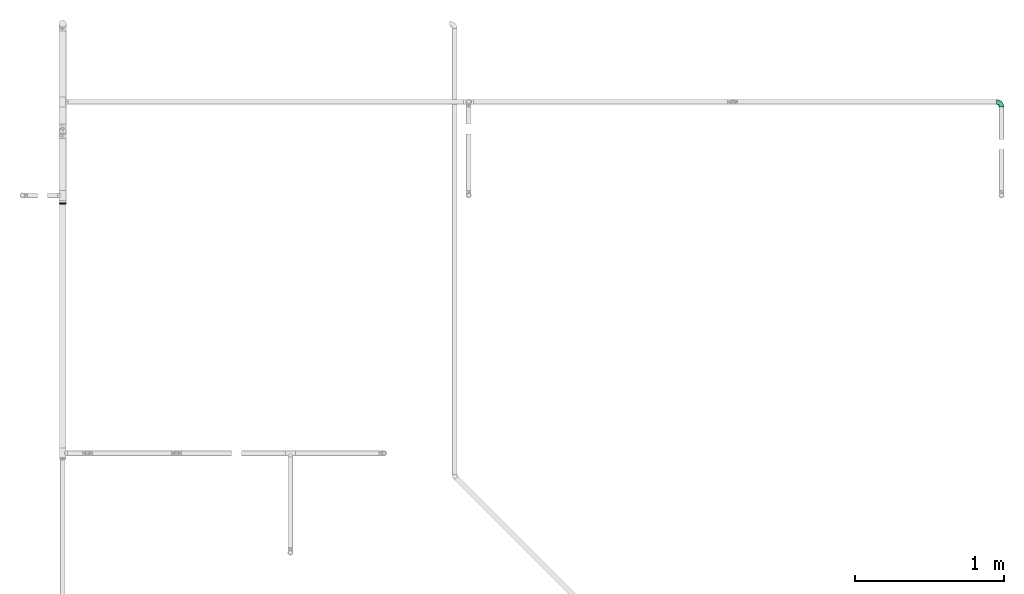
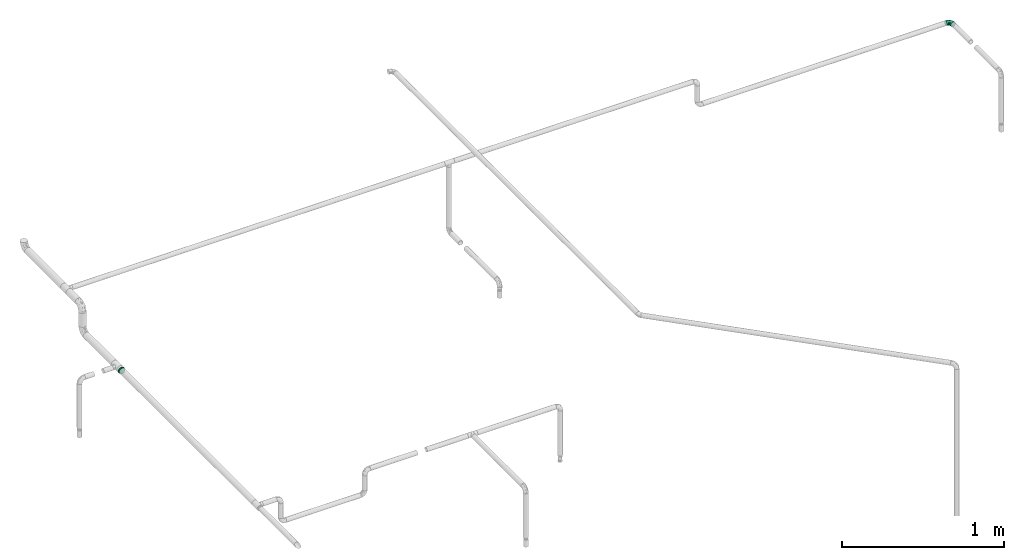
# One storey, part 17 of 17: 2 flow fittings.
"""IFC2X3 building model written with IfcOpenShell, lengths in millimetres."""

from ifc_helpers import new_model, entity, si_unit, converted_unit, derived_unit, direction, frame, origin_with_axes, place, context, subcontext, project, spatial, open_shell, surface_model, source, transform, mapped, type_object, element, save


model = new_model("IFC2X3")

# Units and contexts
model_context = context("Model", 3, precision=0.01, world=frame((0.0, 4.29681676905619e-09, 0.0)), true_north=direction((4.01073788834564e-13, 1.0)))
plan_context = context("Plan", 3, precision=0.01, world=frame((0.0, 4.29681676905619e-09, 0.0)), true_north=direction((4.01073788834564e-13, 1.0)))
body_context = subcontext(model_context, "Body", "Model", "MODEL_VIEW")
ifc_project = project(units=[converted_unit("PLANEANGLEUNIT", "DEGREE", entity("IfcPositiveLengthMeasure", 0.0174532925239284), si_unit("PLANEANGLEUNIT", "RADIAN"), dimensions=[0, 0, 0, 0, 0, 0, 0]), si_unit("AREAUNIT", "SQUARE_METRE"), si_unit("LENGTHUNIT", "METRE", prefix="MILLI"), si_unit("MASSUNIT", "GRAM", prefix="KILO"), si_unit("POWERUNIT", "WATT"), si_unit("PRESSUREUNIT", "PASCAL", prefix="KILO"), si_unit("FORCEUNIT", "NEWTON", prefix="KILO"), si_unit("ELECTRICVOLTAGEUNIT", "VOLT"), si_unit("ELECTRICCURRENTUNIT", "AMPERE"), si_unit("THERMODYNAMICTEMPERATUREUNIT", "DEGREE_CELSIUS"), si_unit("TIMEUNIT", "SECOND"), si_unit("VOLUMEUNIT", "CUBIC_METRE"), derived_unit("LINEARVELOCITYUNIT", [(si_unit("LENGTHUNIT", "METRE"), 1), (si_unit("TIMEUNIT", "SECOND"), -1)]), derived_unit("VOLUMETRICFLOWRATEUNIT", [(si_unit("VOLUMEUNIT", "CUBIC_METRE"), 1), (si_unit("TIMEUNIT", "SECOND"), -1)]), derived_unit("THERMALTRANSMITTANCEUNIT", [(si_unit("POWERUNIT", "WATT"), 1), (si_unit("THERMODYNAMICTEMPERATUREUNIT", "KELVIN"), -1), (si_unit("AREAUNIT", "SQUARE_METRE"), -1)]), derived_unit("SOUNDPRESSUREUNIT", [(si_unit("PRESSUREUNIT", "PASCAL"), 1)])], contexts=[model_context, plan_context])

# Site, building, storey
site_placement = place(None, frame((0.0, -4.29681676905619e-09, 0.0), z_axis=(0.0, 0.0, 1.0), x_axis=(1.0, 0.0, 0.0)))
site = spatial("IfcSite", under=ifc_project, at=site_placement, CompositionType="ELEMENT")
building_placement = place(site_placement, frame((0.0, 4.29681676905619e-09, 0.0), z_axis=(0.0, 0.0, 1.0), x_axis=(1.0, 0.0, 0.0)))
building = spatial("IfcBuilding", under=site, at=building_placement, Name="mc-building", CompositionType="ELEMENT")
storey_placement = place(building_placement, frame((0.0, 0.0, 204000.0), z_axis=(0.0, 0.0, 1.0), x_axis=(1.0, 0.0, 0.0)))
storey = spatial("IfcBuildingStorey", under=building, at=storey_placement, Name="Nivå D", CompositionType="ELEMENT", Elevation=204000.0)

# Flow fittings
pipe_fitting_type_1 = type_object("IfcPipeFittingType", Name="magi_pipe_fe_reducer_centric_short_NOR", PredefinedType="TRANSITION")
shared_shape_1 = source(origin_with_axes(), body_context, "Body", "SurfaceModel", [
    surface_model("IfcShellBasedSurfaceModel", [(-2.0, -10.6, -18.35974), (-2.0, 0.0, -21.2), (-2.0, -5.48696, -20.47763), (-2.0, 5.48696, -20.47763), (-2.0, 10.6, -18.35974), (-2.0, 0.0, 21.2), (-2.0, 5.48696, 20.47763), (-2.0, 10.6, 18.35974), (-2.0, 14.99066, 14.99066), (-2.0, 18.35974, 10.6), (-2.0, 20.47763, 5.48696), (-2.0, -21.2, 0.0), (-2.0, -14.99066, -14.99066), (-2.0, -5.48696, 20.47763), (-2.0, -14.99066, 14.99066), (-2.0, -10.6, 18.35974), (-2.0, -18.35974, 10.6), (-2.0, -20.47763, 5.48696), (-2.0, 20.47763, -5.48696), (-2.0, 14.99066, -14.99066), (-2.0, 18.35974, -10.6), (-2.0, -18.35974, -10.6), (-2.0, -20.47763, -5.48696), (-2.0, 21.2, 0.0), (0.0, 10.6, -18.35974), (0.0, 0.0, -21.2), (0.0, 5.48696, -20.47763), (0.0, 20.47763, -5.48696), (0.0, 14.99066, -14.99066), (0.0, -21.2, 0.0), (0.0, -14.99066, -14.99066), (0.0, 18.35974, -10.6), (0.0, -10.6, -18.35974), (0.0, -5.48696, -20.47763), (0.0, -18.35974, -10.6), (0.0, -20.47763, -5.48696), (0.0, -18.35974, 10.6), (0.0, 21.2, 0.0), (0.0, 20.47763, 5.48696), (0.0, 18.35974, 10.6), (0.0, 14.99066, 14.99066), (0.0, 0.0, 21.2), (0.0, 10.6, 18.35974), (0.0, 5.48696, 20.47763), (0.0, -14.99066, 14.99066), (0.0, -20.47763, 5.48696), (0.0, -5.48696, 20.47763), (0.0, -10.6, 18.35974), (8.0, 24.2, 0.0), (8.0, 6.26342, -23.37541), (8.0, 12.1, -20.95781), (8.0, 23.37541, -6.26342), (8.0, 17.11198, -17.11198), (8.0, 20.95781, -12.1), (8.0, -24.2, 0.0), (8.0, -12.1, -20.95781), (8.0, -6.26342, -23.37541), (8.0, 0.0, -24.2), (8.0, -17.11198, -17.11198), (8.0, -23.37541, -6.26342), (8.0, -20.95781, -12.1), (8.0, 20.95781, 12.1), (8.0, 17.11198, 17.11198), (8.0, 12.1, 20.95781), (8.0, 6.26342, 23.37541), (8.0, 0.0, 24.2), (8.0, -23.37541, 6.26342), (8.0, -17.11198, 17.11198), (8.0, -20.95781, 12.1), (8.0, -6.26342, 23.37541), (8.0, -12.1, 20.95781), (8.0, 23.37541, 6.26342), (6.0, 0.0, 24.2), (6.0, 6.26342, 23.37541), (6.0, 12.1, 20.95781), (6.0, 17.11198, 17.11198), (6.0, 6.26342, -23.37541), (6.0, 20.95781, 12.1), (6.0, -23.37541, 6.26342), (6.0, -17.11198, -17.11198), (6.0, -6.26342, 23.37541), (6.0, -17.11198, 17.11198), (6.0, -12.1, 20.95781), (6.0, -20.95781, 12.1), (6.0, -24.2, 0.0), (6.0, 23.37541, 6.26342), (6.0, 24.2, 0.0), (6.0, 23.37541, -6.26342), (6.0, 17.11198, -17.11198), (6.0, 20.95781, -12.1), (6.0, 12.1, -20.95781), (6.0, -23.37541, -6.26342), (6.0, -20.95781, -12.1), (6.0, -6.26342, -23.37541), (6.0, -12.1, -20.95781), (6.0, 0.0, -24.2), (6.0, 7.47821, 23.01557), (6.0, -7.47821, 23.01557), (6.0, 19.57821, 14.2244), (6.0, 19.57821, -14.2244), (6.0, -19.57821, 14.2244), (6.0, -19.57821, -14.2244), (6.0, 7.47821, -23.01557), (6.0, -7.47821, -23.01557), (0.0, -6.55116, 20.1624), (0.0, 6.55116, 20.1624), (0.0, -17.15116, 12.46105), (0.0, -17.15116, -12.46105), (0.0, 17.15116, 12.46105), (0.0, 17.15116, -12.46105), (0.0, -6.55116, -20.1624), (0.0, 6.55116, -20.1624), (6.0, -21.8891, -7.1122), (0.0, -19.17558, -6.23052), (0.0, -11.85116, -16.31172), (6.0, -13.52821, -18.61999), (6.0, 0.0, -23.01557), (0.0, 0.0, -20.1624), (0.0, 18.43768, -8.50153), (0.0, 19.72421, -4.54202), (6.0, 21.8891, -7.1122), (6.0, 13.52821, -18.61999), (0.0, 11.85116, -16.31172), (6.0, 21.8891, 7.1122), (0.0, 19.17558, 6.23052), (0.0, 11.85116, 16.31172), (6.0, 13.52821, 18.61999), (6.0, 0.0, 23.01557), (0.0, 0.0, 20.1624), (0.0, -18.43768, 8.50153), (0.0, -19.72421, 4.54202), (6.0, -21.8891, 7.1122), (6.0, -13.52821, 18.61999), (0.0, -11.85116, 16.31172)], [open_shell([[[0, 1, 2]], [[3, 1, 4]], [[5, 6, 7]], [[5, 7, 8]], [[8, 9, 10]], [[8, 10, 5]], [[11, 5, 12]], [[13, 14, 15]], [[13, 5, 14]], [[16, 11, 17]], [[14, 5, 16]], [[5, 11, 16]], [[5, 10, 12]], [[10, 18, 4]], [[19, 18, 20]], [[12, 10, 4]], [[4, 18, 19]], [[11, 21, 22]], [[12, 21, 11]], [[0, 12, 4]], [[1, 0, 4]], [[18, 10, 23]], [[24, 25, 26]], [[27, 24, 28]], [[29, 30, 24]], [[27, 28, 31]], [[27, 29, 24]], [[25, 32, 33]], [[25, 24, 32]], [[34, 29, 35]], [[32, 24, 30]], [[34, 30, 29]], [[36, 27, 37]], [[38, 39, 40]], [[38, 40, 41]], [[42, 43, 41]], [[42, 41, 40]], [[38, 41, 44]], [[29, 36, 45]], [[27, 36, 29]], [[44, 46, 47]], [[36, 38, 44]], [[41, 46, 44]], [[36, 37, 38]], [[22, 35, 11]], [[21, 34, 22]], [[32, 12, 0]], [[21, 12, 30]], [[33, 0, 2]], [[22, 34, 35]], [[35, 29, 11]], [[33, 32, 0]], [[30, 12, 32]], [[30, 34, 21]], [[25, 33, 2]], [[2, 1, 25]], [[3, 26, 1]], [[4, 24, 3]], [[31, 19, 20]], [[4, 19, 28]], [[27, 20, 18]], [[4, 28, 24]], [[24, 26, 3]], [[37, 27, 18]], [[31, 20, 27]], [[31, 28, 19]], [[23, 37, 18]], [[1, 26, 25]], [[10, 38, 23]], [[9, 39, 10]], [[42, 8, 7]], [[9, 8, 40]], [[43, 7, 6]], [[10, 39, 38]], [[38, 37, 23]], [[43, 42, 7]], [[40, 8, 42]], [[40, 39, 9]], [[41, 43, 6]], [[6, 5, 41]], [[13, 46, 5]], [[15, 47, 13]], [[36, 14, 16]], [[15, 14, 44]], [[45, 16, 17]], [[15, 44, 47]], [[47, 46, 13]], [[29, 45, 17]], [[36, 16, 45]], [[36, 44, 14]], [[11, 29, 17]], [[5, 46, 41]], [[48, 49, 50]], [[51, 50, 52]], [[51, 48, 50]], [[51, 52, 53]], [[49, 54, 55]], [[49, 56, 57]], [[49, 55, 56]], [[58, 59, 60]], [[58, 55, 54]], [[58, 54, 59]], [[49, 48, 61]], [[61, 62, 49]], [[49, 62, 54]], [[63, 64, 65]], [[63, 65, 62]], [[54, 62, 65]], [[66, 67, 68]], [[69, 66, 54]], [[67, 69, 70]], [[69, 67, 66]], [[54, 65, 69]], [[48, 71, 61]], [[72, 73, 74]], [[72, 74, 75]], [[76, 75, 77]], [[78, 72, 79]], [[72, 75, 79]], [[80, 81, 82]], [[80, 72, 81]], [[81, 78, 83]], [[72, 78, 81]], [[78, 79, 84]], [[76, 77, 85]], [[76, 86, 87]], [[88, 87, 89]], [[90, 76, 87]], [[90, 87, 88]], [[76, 79, 75]], [[91, 79, 92]], [[84, 79, 91]], [[76, 93, 94]], [[94, 79, 76]], [[93, 76, 95]], [[85, 86, 76]], [[91, 59, 84]], [[92, 60, 91]], [[55, 79, 94]], [[92, 79, 58]], [[56, 94, 93]], [[91, 60, 59]], [[59, 54, 84]], [[56, 55, 94]], [[58, 79, 55]], [[58, 60, 92]], [[57, 56, 93]], [[93, 95, 57]], [[76, 49, 95]], [[90, 50, 76]], [[53, 88, 89]], [[90, 88, 52]], [[51, 89, 87]], [[90, 52, 50]], [[50, 49, 76]], [[48, 51, 87]], [[53, 89, 51]], [[53, 52, 88]], [[86, 48, 87]], [[95, 49, 57]], [[85, 71, 86]], [[77, 61, 85]], [[63, 75, 74]], [[77, 75, 62]], [[64, 74, 73]], [[85, 61, 71]], [[71, 48, 86]], [[64, 63, 74]], [[62, 75, 63]], [[62, 61, 77]], [[65, 64, 73]], [[73, 72, 65]], [[80, 69, 72]], [[82, 70, 80]], [[68, 81, 83]], [[82, 81, 67]], [[66, 83, 78]], [[82, 67, 70]], [[70, 69, 80]], [[54, 66, 78]], [[68, 83, 66]], [[68, 67, 81]], [[84, 54, 78]], [[72, 69, 65]], [[96, 97, 84]], [[98, 99, 86]], [[96, 99, 98]], [[84, 97, 100]], [[84, 101, 99]], [[101, 102, 99]], [[102, 101, 103]], [[84, 99, 96]], [[104, 105, 37]], [[106, 107, 29]], [[104, 107, 106]], [[37, 105, 108]], [[37, 109, 107]], [[109, 110, 107]], [[110, 109, 111]], [[37, 107, 104]], [[112, 29, 113]], [[113, 107, 101]], [[103, 114, 110]], [[29, 112, 84]], [[113, 101, 112]], [[115, 107, 114]], [[116, 103, 110]], [[117, 102, 116]], [[102, 117, 111]], [[118, 119, 120]], [[107, 115, 101]], [[103, 115, 114]], [[111, 121, 102]], [[122, 99, 121]], [[119, 86, 120]], [[121, 111, 122]], [[119, 37, 86]], [[122, 109, 99]], [[116, 110, 117]], [[118, 99, 109]], [[99, 118, 120]], [[123, 37, 124]], [[124, 108, 98]], [[96, 125, 105]], [[37, 123, 86]], [[124, 98, 123]], [[126, 108, 125]], [[127, 96, 105]], [[128, 97, 127]], [[97, 128, 104]], [[129, 130, 131]], [[108, 126, 98]], [[96, 126, 125]], [[104, 132, 97]], [[133, 100, 132]], [[130, 84, 131]], [[132, 104, 133]], [[130, 29, 84]], [[133, 106, 100]], [[127, 105, 128]], [[129, 100, 106]], [[100, 129, 131]]])]),
])
flow_fitting_1_placement = place(storey_placement, frame((596244.66498, 403991.43152, 2780.0), z_axis=(0.0, 0.0, 1.0), x_axis=(0.0, 1.0, 0.0)))
element("IfcFlowFitting", 1, at=flow_fitting_1_placement, inside=storey, type_object=pipe_fitting_type_1, Name="magi_pipe_fe_reducer_centric_short_NOR", context=body_context, shape_type="MappedRepresentation", body=[
    mapped(shared_shape_1, transform((0.0, 0.0, 0.0), scale=1.0)),
])
pipe_fitting_type_2 = type_object("IfcPipeFittingType", Name="magi_pipe_fe_elbow_short_001", PredefinedType="BEND")
shared_shape_2 = source(origin_with_axes(), body_context, "Body", "SurfaceModel", [
    surface_model("IfcShellBasedSurfaceModel", [(-33.8, 8.45, -14.63583), (-33.8, 4.37404, -16.32415), (-33.8, 11.9501, -11.9501), (-33.8, -11.9501, -11.9501), (-33.8, -14.63583, -8.45), (-33.8, -8.45, -14.63583), (-33.8, 0.0, -16.9), (-33.8, -4.37404, -16.32415), (-33.8, -4.37404, 16.32415), (-33.8, 0.0, 16.9), (-33.8, -8.45, 14.63583), (-33.8, 16.32415, -4.37404), (-33.8, 14.63583, -8.45), (-33.8, -16.9, 0.0), (-33.8, -16.32415, 4.37404), (-33.8, -16.32415, -4.37404), (-33.8, 4.37404, 16.32415), (-33.8, 8.45, 14.63583), (-33.8, 11.9501, 11.9501), (-33.8, -14.63583, 8.45), (-33.8, -11.9501, 11.9501), (-11.9501, 33.8, -11.9501), (0.0, 33.8, -16.9), (-4.37404, 33.8, -16.32415), (-8.45, 33.8, -14.63583), (-14.63583, 33.8, -8.45), (-16.32415, 33.8, -4.37404), (8.45, 33.8, -14.63583), (14.63583, 33.8, -8.45), (11.9501, 33.8, -11.9501), (16.32415, 33.8, -4.37404), (16.32415, 33.8, 4.37404), (16.9, 33.8, 0.0), (-11.9501, 33.8, 11.9501), (-8.45, 33.8, 14.63583), (-4.37404, 33.8, 16.32415), (11.9501, 33.8, 11.9501), (14.63583, 33.8, 8.45), (8.45, 33.8, 14.63583), (0.0, 33.8, 16.9), (4.37404, 33.8, 16.32415), (-16.32415, 33.8, 4.37404), (-16.9, 33.8, 0.0), (-24.79389, -13.12945, 9.48721), (-22.19287, -9.75018, 12.59315), (-24.09897, -14.97035, 0.0), (-14.93934, -10.76256, 8.5297), (-22.46095, -14.75051, 5.27077), (-24.84007, -6.39063, 15.2048), (-25.81779, -2.23879, 16.61097), (-23.66549, 2.59054, 16.87119), (-26.50418, 14.06512, 11.08152), (-24.21253, 17.66365, 7.72657), (-29.58514, 15.86957, 7.00283), (-6.17382, -7.5455, 0.0), (-13.23888, -11.9251, 4.33236), (-14.39795, -13.04069, 0.0), (-17.81434, 18.87373, 11.97104), (-6.30846, 29.15138, 15.82987), (-2.31622, 25.28002, 16.85849), (-29.23923, 10.23435, 13.77053), (-1.45439, -2.85688, 7.61475), (-0.28326, 0.34872, 10.09509), (-5.74484, -4.04709, 10.4122), (-33.8, 14.63583, 8.45), (-14.63583, 33.8, 8.45), (-17.39909, 24.75344, 7.64977), (-26.19233, 20.0512, 0.0), (-33.8, 16.9, 0.0), (-28.14518, 17.29657, 4.25857), (-33.8, 16.32415, 4.37404), (-26.05147, 6.6281, 15.96447), (-5.87354, 16.61944, 16.86968), (-12.51807, 12.51807, 16.48937), (-10.06312, 7.38516, 16.81295), (-3.01882, 3.01882, 13.81718), (-13.0571, -4.10169, 14.04018), (-16.82553, -0.15166, 16.38038), (-13.68847, -7.71387, 11.55891), (-7.30894, 22.89991, 16.09489), (-10.67958, 26.17414, 14.008), (-12.78295, 18.26924, 15.06066), (-13.88562, 22.45231, 12.93244), (-18.04944, 15.16501, 14.04434), (-23.11658, 20.08178, 4.02986), (-21.84989, 21.84989, 0.0), (-18.55817, 25.48277, 3.93065), (-13.95142, 26.94732, 11.03289), (-18.57098, 7.23906, 16.59756), (-16.58335, 4.14122, 16.89279), (-17.96666, 11.46709, 15.63151), (-9.84453, 17.54304, 16.18938), (-23.27207, 11.47201, 14.23154), (-8.39727, 3.10034, 15.7812), (-8.0212, -7.54413, 7.93275), (1.00345, -2.19508, 4.57414), (5.13203, 3.01004, 5.90201), (-20.0512, 26.19233, 0.0), (3.84842, 5.86994, 10.70473), (8.4852, 8.76699, 7.09296), (-1.72649, 9.1306, 15.53089), (-4.55488, -6.72064, 4.90681), (8.70457, 7.04947, 3.99182), (7.71387, 13.68847, 11.55891), (10.76256, 14.93934, 8.5297), (-26.75399, 2.1369, -16.845), (-14.61995, 24.73803, -11.27736), (-28.45274, -13.45335, -9.81895), (-26.00469, 6.63555, -15.96645), (-23.06726, 20.04573, -4.26202), (-24.53586, 11.08096, -14.13417), (-26.72048, 14.00837, -11.05776), (-20.38182, 15.48705, -12.74596), (-15.65186, 19.64213, -13.01327), (-12.03528, 20.66498, -14.67665), (-15.61907, 15.61906, -14.83879), (-25.56551, -15.26206, 0.0), (-24.65452, -15.12934, -5.50955), (-7.35442, -8.31014, -5.65563), (-15.67504, -12.54494, -5.54878), (-24.44989, -10.0967, -12.75976), (-21.23441, -12.53268, -9.15363), (-24.89911, -2.13088, -16.591), (-28.54238, -6.66249, -15.38093), (-18.44386, -7.71663, -13.26957), (-28.64342, 17.44413, -2.89318), (-5.70658, -5.33066, -8.89288), (1.70017, -1.28722, -5.09504), (-16.57067, 26.81947, -7.36596), (-17.69055, 27.4263, -3.76405), (-12.89279, -9.7522, -8.66343), (-20.53709, 20.09345, -8.28985), (-2.1369, 26.75399, -16.845), (-6.89872, 24.58781, -16.02578), (-10.60739, 26.53157, -13.98044), (-21.40218, -5.83237, -15.03047), (-14.67501, -0.21081, -16.07388), (-3.99512, 18.61798, -16.89635), (-9.1383, 9.86148, -16.89041), (-9.99983, 16.02119, -16.39699), (-16.68576, 9.78031, -16.34199), (-27.01915, 16.61158, -7.12979), (0.21081, 14.67501, -16.07388), (-5.96611, 5.96611, -15.95814), (-13.80647, -4.26506, -14.17873), (-18.61798, 3.99512, -16.89635), (-19.37495, 27.82495, 0.0), (-12.61842, -6.89393, -11.82233), (5.58056, 5.95325, -8.79455), (8.31014, 7.35442, -5.65563), (-18.84705, 19.14018, -10.96545), (-5.13869, -2.37198, -11.53565), (-4.41136, 11.31917, 16.59407), (0.15167, 16.82552, 16.38038), (4.1017, 13.05709, 14.04019), (5.24161, 1.75429, 2.53265), (7.54551, 6.1738, 0.0), (11.9251, 13.23887, 4.33236), (-6.79019, -0.28281, -13.8478), (0.71147, 7.93862, -14.09382), (2.93193, 5.89626, -11.55917), (6.89393, 12.61842, -11.82233), (9.7522, 12.89278, -8.66343), (12.54494, 15.67503, -5.54878), (15.12934, 24.65451, -5.50955), (0.16522, 0.41301, -9.71728), (9.75019, 22.19285, 12.59315), (6.39064, 24.84006, 15.2048), (2.2388, 25.81778, 16.61097), (10.09671, 24.44988, -12.75976), (5.83237, 21.40217, -15.03047), (6.6625, 28.54237, -15.38093), (12.53269, 21.2344, -9.15364), (13.45335, 28.45273, -9.81895), (2.13089, 24.8991, -16.591), (13.0407, 14.39794, 0.0), (15.26207, 25.5655, 0.0), (4.37404, 33.8, -16.32415), (14.75051, 22.46094, 5.27077), (13.12946, 24.79387, 9.48721), (14.97035, 24.09896, 0.0), (2.05032, -2.05032, 0.0), (3.49291, 14.42772, -14.76381)], [open_shell([[[0, 1, 2]], [[3, 4, 5]], [[6, 7, 5]], [[6, 5, 4]], [[8, 9, 10]], [[11, 12, 2]], [[13, 14, 15]], [[16, 17, 18]], [[19, 20, 14]], [[10, 9, 16]], [[21, 22, 23]], [[21, 23, 24]], [[21, 25, 26]], [[27, 28, 29]], [[30, 31, 32]], [[33, 34, 35]], [[31, 36, 37]], [[38, 39, 40]], [[41, 26, 42]], [[20, 43, 44]], [[14, 13, 45]], [[46, 43, 47]], [[43, 20, 19]], [[14, 47, 19]], [[44, 10, 20]], [[44, 48, 10]], [[9, 49, 50]], [[51, 52, 53]], [[54, 55, 56]], [[51, 57, 52]], [[35, 58, 59]], [[17, 60, 18]], [[8, 49, 9]], [[61, 62, 63]], [[18, 51, 64]], [[65, 41, 66]], [[67, 68, 69]], [[53, 70, 64]], [[9, 50, 16]], [[16, 71, 17]], [[72, 73, 74]], [[63, 75, 76]], [[48, 76, 77]], [[78, 76, 44]], [[10, 48, 8]], [[55, 47, 56]], [[79, 72, 59]], [[80, 81, 79]], [[82, 83, 81]], [[67, 84, 85]], [[34, 33, 80]], [[86, 85, 84]], [[57, 66, 52]], [[35, 34, 58]], [[68, 70, 69]], [[80, 79, 58]], [[66, 86, 84]], [[33, 87, 80]], [[59, 39, 35]], [[82, 80, 87]], [[14, 45, 47]], [[71, 16, 50]], [[88, 89, 74]], [[90, 71, 88]], [[33, 65, 87]], [[91, 81, 73]], [[79, 91, 72]], [[60, 51, 18]], [[51, 92, 83]], [[76, 48, 44]], [[56, 47, 45]], [[49, 48, 77]], [[78, 44, 46]], [[76, 75, 93]], [[94, 63, 78]], [[61, 63, 94]], [[55, 46, 47]], [[61, 95, 96]], [[47, 43, 19]], [[44, 43, 46]], [[88, 71, 50]], [[60, 71, 92]], [[70, 53, 69]], [[52, 66, 84]], [[42, 97, 86]], [[86, 97, 85]], [[65, 66, 87]], [[57, 87, 66]], [[82, 81, 80]], [[90, 83, 92]], [[88, 74, 73]], [[93, 74, 77]], [[48, 49, 8]], [[50, 49, 77]], [[62, 75, 63]], [[98, 96, 99]], [[88, 50, 89]], [[90, 88, 73]], [[81, 90, 73]], [[71, 90, 92]], [[81, 83, 90]], [[51, 83, 57]], [[50, 77, 89]], [[77, 74, 89]], [[76, 93, 77]], [[100, 93, 75]], [[71, 60, 17]], [[51, 60, 92]], [[80, 58, 34]], [[59, 58, 79]], [[51, 53, 64]], [[69, 52, 84]], [[52, 69, 53]], [[69, 84, 67]], [[55, 54, 101]], [[94, 55, 101]], [[96, 102, 99]], [[94, 78, 46]], [[63, 76, 78]], [[99, 103, 98]], [[55, 94, 46]], [[61, 94, 101]], [[95, 61, 101]], [[62, 96, 98]], [[99, 104, 103]], [[96, 62, 61]], [[75, 62, 98]], [[66, 41, 86]], [[42, 86, 41]], [[87, 57, 82]], [[82, 57, 83]], [[72, 91, 73]], [[79, 81, 91]], [[1, 105, 6]], [[25, 21, 106]], [[3, 107, 4]], [[0, 108, 1]], [[85, 109, 67]], [[110, 2, 111]], [[110, 111, 112]], [[113, 114, 115]], [[110, 0, 2]], [[56, 116, 117]], [[117, 15, 4]], [[118, 54, 119]], [[120, 3, 5]], [[119, 117, 121]], [[122, 7, 6]], [[5, 123, 120]], [[121, 120, 124]], [[123, 5, 7]], [[68, 67, 125]], [[126, 127, 118]], [[128, 129, 26]], [[119, 130, 118]], [[26, 25, 128]], [[106, 131, 128]], [[22, 132, 23]], [[23, 132, 133]], [[21, 24, 134]], [[109, 129, 131]], [[123, 122, 135]], [[108, 0, 110]], [[23, 133, 24]], [[135, 122, 136]], [[112, 113, 115]], [[2, 12, 111]], [[137, 138, 139]], [[140, 108, 110]], [[125, 141, 11]], [[134, 24, 133]], [[139, 133, 137]], [[113, 134, 114]], [[107, 117, 4]], [[116, 13, 15]], [[142, 143, 138]], [[135, 144, 124]], [[107, 120, 121]], [[105, 122, 6]], [[145, 138, 136]], [[145, 136, 122]], [[130, 119, 121]], [[116, 15, 117]], [[141, 111, 12]], [[110, 112, 115]], [[140, 110, 115]], [[105, 108, 145]], [[106, 128, 25]], [[129, 85, 146]], [[133, 139, 114]], [[106, 21, 134]], [[129, 42, 26]], [[67, 109, 125]], [[109, 131, 141]], [[129, 109, 85]], [[126, 118, 130]], [[111, 141, 131]], [[12, 11, 141]], [[127, 54, 118]], [[56, 117, 119]], [[108, 105, 1]], [[122, 105, 145]], [[133, 132, 137]], [[137, 142, 138]], [[140, 115, 139]], [[136, 138, 143]], [[140, 138, 145]], [[138, 140, 139]], [[108, 140, 145]], [[121, 147, 130]], [[147, 126, 130]], [[127, 148, 149]], [[131, 150, 111]], [[150, 106, 113]], [[147, 151, 126]], [[150, 113, 112]], [[134, 113, 106]], [[133, 114, 134]], [[139, 115, 114]], [[111, 150, 112]], [[106, 150, 131]], [[129, 128, 131]], [[42, 129, 146]], [[141, 125, 109]], [[68, 125, 11]], [[122, 123, 7]], [[120, 123, 135]], [[120, 107, 3]], [[117, 107, 121]], [[56, 119, 54]], [[124, 144, 147]], [[136, 144, 135]], [[121, 124, 147]], [[135, 124, 120]], [[4, 15, 2]], [[64, 70, 18]], [[33, 41, 65]], [[72, 74, 152]], [[72, 152, 153]], [[27, 30, 28]], [[152, 93, 100]], [[153, 100, 154]], [[155, 102, 96]], [[153, 59, 72]], [[154, 100, 75]], [[152, 100, 153]], [[93, 152, 74]], [[96, 95, 155]], [[102, 156, 157]], [[156, 102, 155]], [[144, 136, 158]], [[143, 142, 159]], [[160, 161, 148]], [[162, 163, 149]], [[28, 30, 164]], [[136, 143, 158]], [[162, 148, 161]], [[158, 143, 159]], [[165, 148, 127]], [[158, 159, 160]], [[158, 147, 144]], [[163, 156, 149]], [[127, 126, 165]], [[148, 162, 149]], [[148, 165, 160]], [[159, 161, 160]], [[156, 127, 149]], [[6, 4, 1]], [[70, 68, 18]], [[14, 18, 68]], [[16, 18, 14]], [[10, 14, 20]], [[16, 14, 10]], [[11, 14, 68]], [[35, 39, 33]], [[33, 39, 38]], [[99, 157, 104]], [[157, 99, 102]], [[38, 30, 33]], [[158, 151, 147]], [[166, 167, 154]], [[168, 59, 153]], [[153, 154, 167]], [[167, 168, 153]], [[169, 170, 171]], [[172, 173, 164]], [[137, 174, 142]], [[142, 174, 170]], [[132, 174, 137]], [[175, 164, 176]], [[174, 171, 170]], [[169, 173, 172]], [[30, 41, 33]], [[36, 31, 38]], [[2, 1, 4]], [[2, 15, 14]], [[11, 2, 14]], [[30, 26, 41]], [[40, 39, 168]], [[59, 168, 39]], [[21, 26, 22]], [[22, 26, 30]], [[30, 27, 177]], [[177, 22, 30]], [[31, 30, 38]], [[178, 157, 175]], [[103, 166, 154]], [[166, 36, 38]], [[104, 179, 166]], [[167, 38, 40]], [[37, 178, 31]], [[157, 178, 104]], [[37, 179, 178]], [[179, 37, 36]], [[178, 175, 180]], [[180, 31, 178]], [[167, 166, 38]], [[168, 167, 40]], [[32, 31, 180]], [[154, 75, 98]], [[103, 104, 166]], [[166, 179, 36]], [[178, 179, 104]], [[181, 101, 54]], [[156, 175, 157]], [[154, 98, 103]], [[101, 181, 95]], [[155, 95, 181]], [[181, 156, 155]], [[172, 163, 162]], [[165, 126, 151]], [[159, 142, 182]], [[164, 163, 172]], [[177, 174, 22]], [[27, 29, 169]], [[173, 29, 28]], [[174, 177, 171]], [[171, 177, 27]], [[173, 169, 29]], [[161, 170, 169]], [[163, 175, 156]], [[30, 32, 176]], [[161, 169, 172]], [[182, 161, 159]], [[30, 176, 164]], [[164, 175, 163]], [[174, 132, 22]], [[161, 172, 162]], [[160, 165, 151]], [[160, 151, 158]], [[169, 171, 27]], [[164, 173, 28]], [[142, 170, 182]], [[127, 156, 181]], [[161, 182, 170]], [[127, 181, 54]]])]),
])
flow_fitting_2_placement = place(storey_placement, frame((602552.91449, 404678.6933, 2790.0), z_axis=(0.0, 0.0, 1.0), x_axis=(0.0, 1.0, 0.0)))
element("IfcFlowFitting", 2, at=flow_fitting_2_placement, inside=storey, type_object=pipe_fitting_type_2, Name="magi_pipe_fe_elbow_short_001", context=body_context, shape_type="MappedRepresentation", body=[
    mapped(shared_shape_2, transform((0.0, 0.0, 0.0), scale=1.0)),
])

save(model, "model.ifc")
